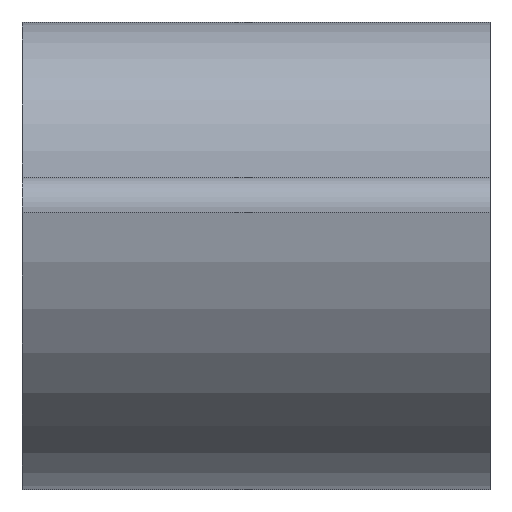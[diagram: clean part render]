
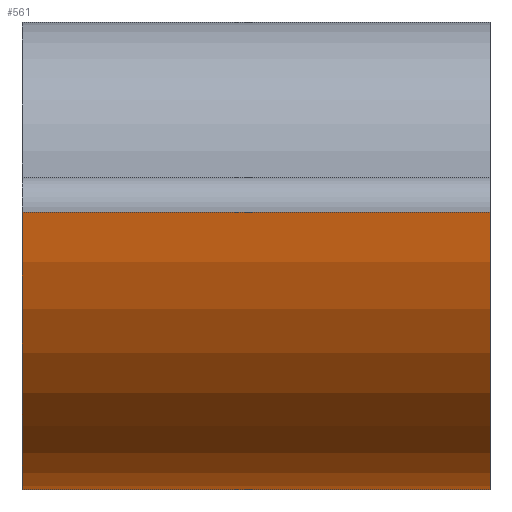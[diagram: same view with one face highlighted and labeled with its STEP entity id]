
A CAD part, front view. The second image highlights one B-rep face of the part: STEP entity #561.
In plain terms, the highlighted cylindrical face has radius 20 mm (diameter 40 mm), a partial arc.
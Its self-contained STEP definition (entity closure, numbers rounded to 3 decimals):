
#206=CARTESIAN_POINT('',(-40.,20.124,17.778));
#207=VERTEX_POINT('',#206);
#215=CARTESIAN_POINT('',(-40.,40.,0.));
#216=VERTEX_POINT('',#215);
#217=CARTESIAN_POINT('',(-40.,40.,20.));
#218=DIRECTION('',(1.,0.,0.));
#219=DIRECTION('',(0.,0.,-1.));
#220=AXIS2_PLACEMENT_3D('',#217,#218,#219);
#221=CIRCLE('',#220,20.);
#222=EDGE_CURVE('',#207,#216,#221,.T.);
#377=CARTESIAN_POINT('',(-70.,40.,-0.));
#378=VERTEX_POINT('',#377);
#379=CARTESIAN_POINT('',(-70.,40.,0.));
#380=DIRECTION('',(1.,0.,-0.));
#381=VECTOR('',#380,30.);
#382=LINE('',#379,#381);
#383=EDGE_CURVE('',#378,#216,#382,.T.);
#537=CARTESIAN_POINT('',(-70.,40.,20.));
#538=DIRECTION('',(1.,0.,0.));
#539=DIRECTION('',(0.,0.,-1.));
#540=AXIS2_PLACEMENT_3D('',#537,#538,#539);
#541=CYLINDRICAL_SURFACE('',#540,20.);
#542=ORIENTED_EDGE('',*,*,#222,.F.);
#543=CARTESIAN_POINT('',(-70.,20.124,17.778));
#544=VERTEX_POINT('',#543);
#545=CARTESIAN_POINT('',(-70.,20.124,17.778));
#546=DIRECTION('',(1.,0.,-0.));
#547=VECTOR('',#546,30.);
#548=LINE('',#545,#547);
#549=EDGE_CURVE('',#544,#207,#548,.T.);
#550=ORIENTED_EDGE('',*,*,#549,.F.);
#551=CARTESIAN_POINT('',(-70.,40.,20.));
#552=DIRECTION('',(1.,0.,0.));
#553=DIRECTION('',(0.,0.,-1.));
#554=AXIS2_PLACEMENT_3D('',#551,#552,#553);
#555=CIRCLE('',#554,20.);
#556=EDGE_CURVE('',#544,#378,#555,.T.);
#557=ORIENTED_EDGE('',*,*,#556,.T.);
#558=ORIENTED_EDGE('',*,*,#383,.T.);
#559=EDGE_LOOP('',(#542,#550,#557,#558));
#560=FACE_BOUND('',#559,.T.);
#561=ADVANCED_FACE(' DE      375',(#560),#541,.T.);
